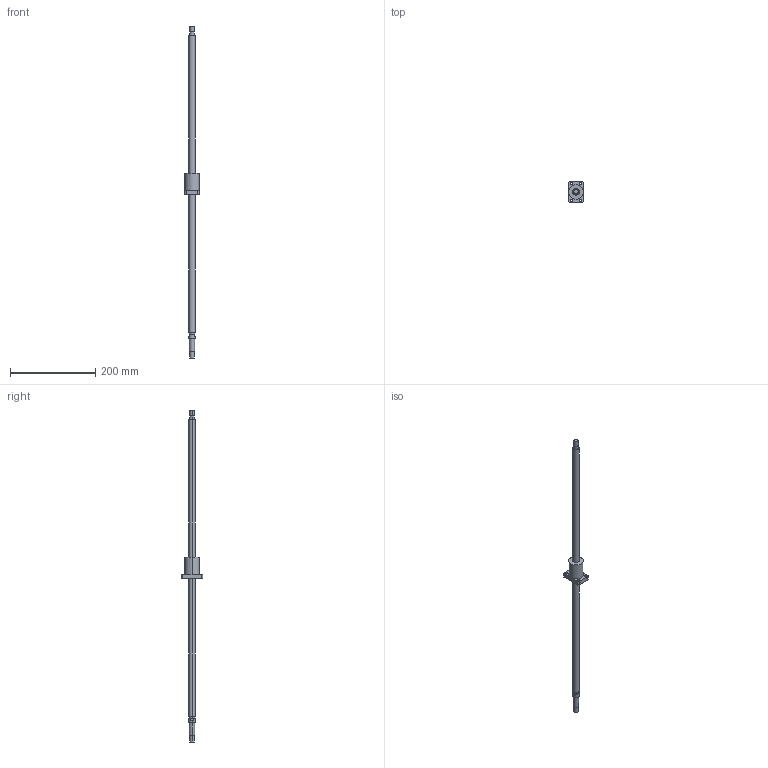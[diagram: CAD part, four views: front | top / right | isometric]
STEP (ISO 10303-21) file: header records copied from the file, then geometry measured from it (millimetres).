
FILE_DESCRIPTION((''),'2;1');
FILE_NAME('R15-10K3-FSC-689-771','2008-03-28T',('mahdi'),(''),'PRO/ENGINEER BY PARAMETRIC TECHNOLOGY CORPORATION, 2005070','PRO/ENGINEER BY PARAMETRIC TECHNOLOGY CORPORATION, 2005070','');
FILE_SCHEMA(('CONFIG_CONTROL_DESIGN'));
Length unit declared in the file: millimetre
Products named in the file (1): R15-10K3-FSC-689-771
Bounding box: 34 x 50 x 777 mm (x, y, z)
Volume: 173709.3 mm3; surface area: 43523 mm2
Topology: 1 solids, 1 shells, 66 faces, 148 edges, 96 vertices
Faces by surface type: cylinder 40, plane 26
Entity records: 1926 total; most frequent: DIRECTION 364, CARTESIAN_POINT 310, ORIENTED_EDGE 296, AXIS2_PLACEMENT_3D 150, EDGE_CURVE 148, VERTEX_POINT 96, EDGE_LOOP 86, CIRCLE 84
